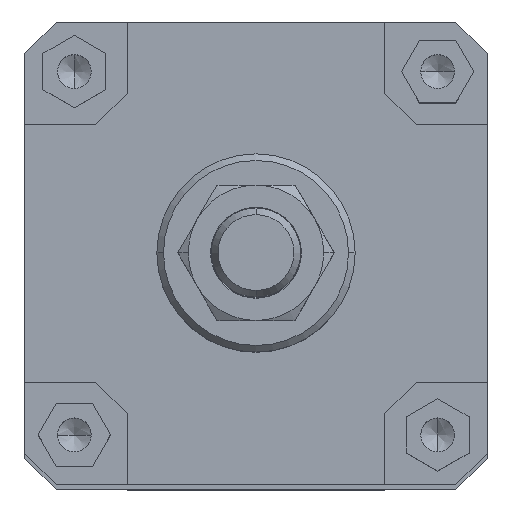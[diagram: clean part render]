
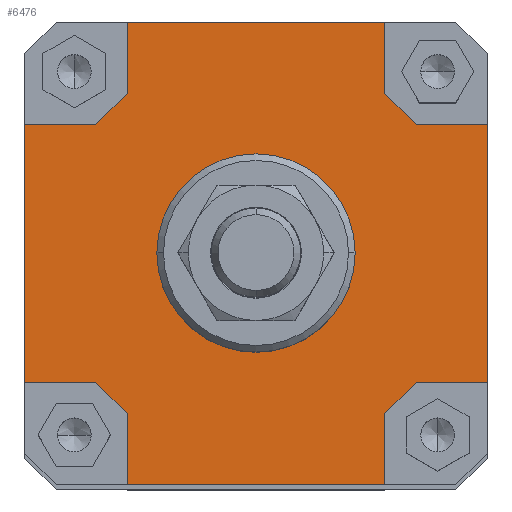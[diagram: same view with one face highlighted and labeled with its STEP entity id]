
A CAD part, top view. The second image highlights one B-rep face of the part: STEP entity #6476.
In plain terms, the highlighted planar face has unit normal (0, 0, 1).
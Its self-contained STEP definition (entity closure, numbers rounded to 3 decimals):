
#2320=CARTESIAN_POINT('',(-30.0,0.,480.0));
#2321=VERTEX_POINT('',#2320);
#2330=CARTESIAN_POINT('',(30.0,0.,480.0));
#2331=VERTEX_POINT('',#2330);
#2332=CARTESIAN_POINT('',(0.0,0.0,480.0));
#2333=DIRECTION('',(0.0,0.0,-1.0));
#2334=DIRECTION('',(-1.0,0.0,0.0));
#2335=AXIS2_PLACEMENT_3D('',#2332,#2333,#2334);
#2336=CIRCLE('',#2335,30.0);
#2337=EDGE_CURVE('',#2331,#2321,#2336,.T.);
#2557=CARTESIAN_POINT('',(0.0,0.0,480.0));
#2558=DIRECTION('',(0.0,0.0,-1.0));
#2559=DIRECTION('',(-1.0,0.0,0.0));
#2560=AXIS2_PLACEMENT_3D('',#2557,#2558,#2559);
#2561=CIRCLE('',#2560,30.0);
#2562=EDGE_CURVE('',#2321,#2331,#2561,.T.);
#2641=CARTESIAN_POINT('',(-39.,70.,480.0));
#2642=VERTEX_POINT('',#2641);
#2649=CARTESIAN_POINT('',(39.,70.,480.0));
#2650=VERTEX_POINT('',#2649);
#2651=CARTESIAN_POINT('',(-39.,70.,480.0));
#2652=DIRECTION('',(1.0,0.0,0.0));
#2653=VECTOR('',#2652,78.);
#2654=LINE('',#2651,#2653);
#2655=EDGE_CURVE('',#2642,#2650,#2654,.T.);
#3100=CARTESIAN_POINT('',(70.,39.,480.0));
#3101=VERTEX_POINT('',#3100);
#3108=CARTESIAN_POINT('',(70.,-39.0,480.0));
#3109=VERTEX_POINT('',#3108);
#3110=CARTESIAN_POINT('',(70.,39.,480.0));
#3111=DIRECTION('',(0.0,-1.0,0.0));
#3112=VECTOR('',#3111,78.);
#3113=LINE('',#3110,#3112);
#3114=EDGE_CURVE('',#3101,#3109,#3113,.T.);
#3181=CARTESIAN_POINT('',(-39.,-48.5,480.0));
#3182=VERTEX_POINT('',#3181);
#3189=CARTESIAN_POINT('',(-48.5,-39.,480.0));
#3190=VERTEX_POINT('',#3189);
#3191=CARTESIAN_POINT('',(-39.,-48.5,480.0));
#3192=DIRECTION('',(-0.707,0.707,0.0));
#3193=VECTOR('',#3192,13.435);
#3194=LINE('',#3191,#3193);
#3195=EDGE_CURVE('',#3182,#3190,#3194,.T.);
#3309=CARTESIAN_POINT('',(-70.,-39.,480.0));
#3310=VERTEX_POINT('',#3309);
#3311=CARTESIAN_POINT('',(-70.,-39.,480.0));
#3312=DIRECTION('',(1.0,0.0,0.0));
#3313=VECTOR('',#3312,21.5);
#3314=LINE('',#3311,#3313);
#3315=EDGE_CURVE('',#3310,#3190,#3314,.T.);
#3342=CARTESIAN_POINT('',(48.5,-39.,480.0));
#3343=VERTEX_POINT('',#3342);
#3350=CARTESIAN_POINT('',(39.,-48.5,480.0));
#3351=VERTEX_POINT('',#3350);
#3352=CARTESIAN_POINT('',(48.5,-39.,480.0));
#3353=DIRECTION('',(-0.707,-0.707,0.0));
#3354=VECTOR('',#3353,13.435);
#3355=LINE('',#3352,#3354);
#3356=EDGE_CURVE('',#3343,#3351,#3355,.T.);
#3454=CARTESIAN_POINT('',(39.,-70.,480.0));
#3455=VERTEX_POINT('',#3454);
#3456=CARTESIAN_POINT('',(39.,-70.,480.0));
#3457=DIRECTION('',(0.0,1.0,0.0));
#3458=VECTOR('',#3457,21.5);
#3459=LINE('',#3456,#3458);
#3460=EDGE_CURVE('',#3455,#3351,#3459,.T.);
#3487=CARTESIAN_POINT('',(39.,48.5,480.0));
#3488=VERTEX_POINT('',#3487);
#3495=CARTESIAN_POINT('',(48.5,39.,480.0));
#3496=VERTEX_POINT('',#3495);
#3497=CARTESIAN_POINT('',(39.,48.5,480.0));
#3498=DIRECTION('',(0.707,-0.707,0.0));
#3499=VECTOR('',#3498,13.435);
#3500=LINE('',#3497,#3499);
#3501=EDGE_CURVE('',#3488,#3496,#3500,.T.);
#3592=CARTESIAN_POINT('',(70.,39.,480.0));
#3593=DIRECTION('',(-1.0,0.0,0.0));
#3594=VECTOR('',#3593,21.5);
#3595=LINE('',#3592,#3594);
#3596=EDGE_CURVE('',#3101,#3496,#3595,.T.);
#3609=CARTESIAN_POINT('',(-48.5,39.,480.0));
#3610=VERTEX_POINT('',#3609);
#3617=CARTESIAN_POINT('',(-39.,48.5,480.0));
#3618=VERTEX_POINT('',#3617);
#3619=CARTESIAN_POINT('',(-48.5,39.,480.0));
#3620=DIRECTION('',(0.707,0.707,0.0));
#3621=VECTOR('',#3620,13.435);
#3622=LINE('',#3619,#3621);
#3623=EDGE_CURVE('',#3610,#3618,#3622,.T.);
#3640=CARTESIAN_POINT('',(-39.,70.,480.0));
#3641=DIRECTION('',(0.0,-1.0,0.0));
#3642=VECTOR('',#3641,21.5);
#3643=LINE('',#3640,#3642);
#3644=EDGE_CURVE('',#2642,#3618,#3643,.T.);
#4674=CARTESIAN_POINT('',(-70.,39.0,480.0));
#4675=VERTEX_POINT('',#4674);
#4676=CARTESIAN_POINT('',(-70.,-39.,480.0));
#4677=DIRECTION('',(0.0,1.0,0.0));
#4678=VECTOR('',#4677,78.0);
#4679=LINE('',#4676,#4678);
#4680=EDGE_CURVE('',#3310,#4675,#4679,.T.);
#6070=CARTESIAN_POINT('',(-48.5,39.,480.0));
#6071=DIRECTION('',(-1.0,0.0,0.0));
#6072=VECTOR('',#6071,21.5);
#6073=LINE('',#6070,#6072);
#6074=EDGE_CURVE('',#3610,#4675,#6073,.T.);
#6231=CARTESIAN_POINT('',(39.,48.5,480.0));
#6232=DIRECTION('',(0.0,1.0,0.0));
#6233=VECTOR('',#6232,21.5);
#6234=LINE('',#6231,#6233);
#6235=EDGE_CURVE('',#3488,#2650,#6234,.T.);
#6392=CARTESIAN_POINT('',(48.5,-39.,480.0));
#6393=DIRECTION('',(1.0,0.0,0.0));
#6394=VECTOR('',#6393,21.5);
#6395=LINE('',#6392,#6394);
#6396=EDGE_CURVE('',#3343,#3109,#6395,.T.);
#6437=CARTESIAN_POINT('',(0.,0.,480.0));
#6438=DIRECTION('',(0.0,0.0,1.0));
#6439=DIRECTION('',(1.0,0.0,0.0));
#6440=AXIS2_PLACEMENT_3D('',#6437,#6438,#6439);
#6441=PLANE('',#6440);
#6442=ORIENTED_EDGE('',*,*,#3644,.T.);
#6443=ORIENTED_EDGE('',*,*,#3623,.F.);
#6444=ORIENTED_EDGE('',*,*,#6074,.T.);
#6445=ORIENTED_EDGE('',*,*,#4680,.F.);
#6446=ORIENTED_EDGE('',*,*,#3315,.T.);
#6447=ORIENTED_EDGE('',*,*,#3195,.F.);
#6448=CARTESIAN_POINT('',(-39.,-70.,480.0));
#6449=VERTEX_POINT('',#6448);
#6450=CARTESIAN_POINT('',(-39.,-48.5,480.0));
#6451=DIRECTION('',(0.0,-1.0,0.0));
#6452=VECTOR('',#6451,21.5);
#6453=LINE('',#6450,#6452);
#6454=EDGE_CURVE('',#3182,#6449,#6453,.T.);
#6455=ORIENTED_EDGE('',*,*,#6454,.T.);
#6456=CARTESIAN_POINT('',(39.,-70.,480.0));
#6457=DIRECTION('',(-1.0,0.0,0.0));
#6458=VECTOR('',#6457,78.);
#6459=LINE('',#6456,#6458);
#6460=EDGE_CURVE('',#3455,#6449,#6459,.T.);
#6461=ORIENTED_EDGE('',*,*,#6460,.F.);
#6462=ORIENTED_EDGE('',*,*,#3460,.T.);
#6463=ORIENTED_EDGE('',*,*,#3356,.F.);
#6464=ORIENTED_EDGE('',*,*,#6396,.T.);
#6465=ORIENTED_EDGE('',*,*,#3114,.F.);
#6466=ORIENTED_EDGE('',*,*,#3596,.T.);
#6467=ORIENTED_EDGE('',*,*,#3501,.F.);
#6468=ORIENTED_EDGE('',*,*,#6235,.T.);
#6469=ORIENTED_EDGE('',*,*,#2655,.F.);
#6470=EDGE_LOOP('',(#6442,#6443,#6444,#6445,#6446,#6447,#6455,#6461,#6462,#6463,#6464,#6465,#6466,#6467,#6468,#6469));
#6471=FACE_OUTER_BOUND('',#6470,.T.);
#6472=ORIENTED_EDGE('',*,*,#2337,.T.);
#6473=ORIENTED_EDGE('',*,*,#2562,.T.);
#6474=EDGE_LOOP('',(#6472,#6473));
#6475=FACE_BOUND('',#6474,.T.);
#6476=ADVANCED_FACE('',(#6471,#6475),#6441,.T.);
